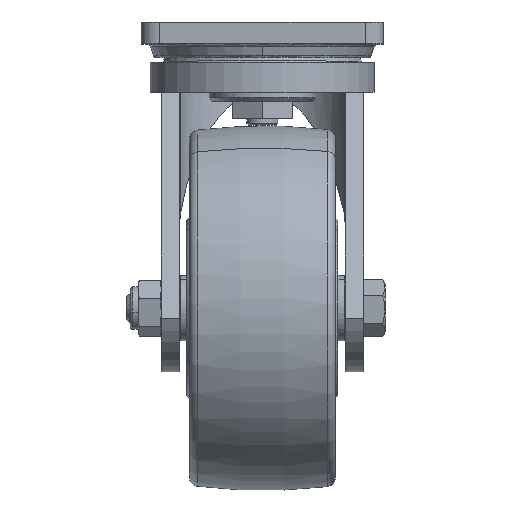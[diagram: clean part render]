
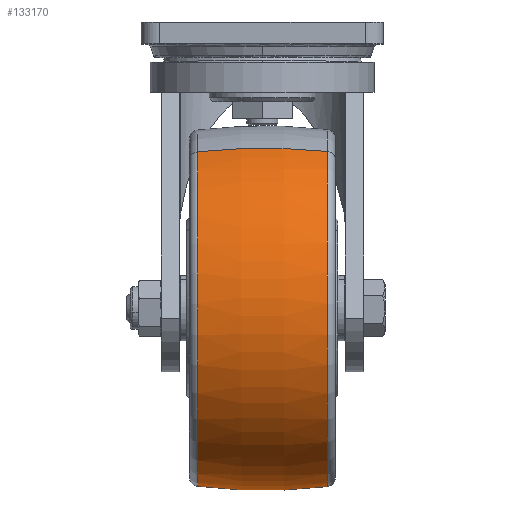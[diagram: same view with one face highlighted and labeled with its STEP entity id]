
A CAD part, top view. The second image highlights one B-rep face of the part: STEP entity #133170.
In plain terms, the highlighted toroidal (fillet/blend) face has major radius 200 mm and minor radius 300 mm.
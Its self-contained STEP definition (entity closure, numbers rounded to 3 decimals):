
#2991 = CARTESIAN_POINT ( 'NONE',  ( 0., -97.971, 35.581 ) ) ;
#13924 = EDGE_LOOP ( 'NONE', ( #23508, #105784, #373351, #107191 ) ) ;
#14680 = CARTESIAN_POINT ( 'NONE',  ( 0., 0., 0.75 ) ) ;
#23508 = ORIENTED_EDGE ( 'NONE', *, *, #274920, .F. ) ;
#30772 = VERTEX_POINT ( 'NONE', #261204 ) ;
#32982 = DIRECTION ( 'NONE',  ( -1., 0., 0. ) ) ;
#75208 = DIRECTION ( 'NONE',  ( 0., -1., 0. ) ) ;
#86481 = VERTEX_POINT ( 'NONE', #384558 ) ;
#101476 = CIRCLE ( 'NONE', #105518, 97.971 ) ;
#105518 = AXIS2_PLACEMENT_3D ( 'NONE', #280203, #217110, #340727 ) ;
#105784 = ORIENTED_EDGE ( 'NONE', *, *, #230179, .T. ) ;
#107191 = ORIENTED_EDGE ( 'NONE', *, *, #182640, .F. ) ;
#114566 = VERTEX_POINT ( 'NONE', #2991 ) ;
#127003 = VERTEX_POINT ( 'NONE', #242156 ) ;
#133170 = ADVANCED_FACE ( 'NONE', ( #154000 ), #191788, .T. ) ;
#154000 = FACE_OUTER_BOUND ( 'NONE', #13924, .T. ) ;
#179668 = AXIS2_PLACEMENT_3D ( 'NONE', #14680, #192480, #75208 ) ;
#180455 = CIRCLE ( 'NONE', #352966, 97.789 ) ;
#182640 = EDGE_CURVE ( 'NONE', #86481, #114566, #101476, .T. ) ;
#191788 = TOROIDAL_SURFACE ( 'NONE', #179668, -200., 300. ) ;
#192480 = DIRECTION ( 'NONE',  ( 0., 0., 1. ) ) ;
#197596 = DIRECTION ( 'NONE',  ( 0., 1., 0. ) ) ;
#213378 = CARTESIAN_POINT ( 'NONE',  ( 0., 200., 0.75 ) ) ;
#217110 = DIRECTION ( 'NONE',  ( 0., 0., 1. ) ) ;
#220969 = EDGE_CURVE ( 'NONE', #127003, #114566, #378297, .T. ) ;
#228117 = DIRECTION ( 'NONE',  ( 0., 0., 1. ) ) ;
#230179 = EDGE_CURVE ( 'NONE', #30772, #127003, #180455, .T. ) ;
#231983 = DIRECTION ( 'NONE',  ( 0., -1., 0. ) ) ;
#242156 = CARTESIAN_POINT ( 'NONE',  ( 0., -97.789, -35.606 ) ) ;
#261204 = CARTESIAN_POINT ( 'NONE',  ( 0., 97.789, -35.606 ) ) ;
#273889 = DIRECTION ( 'NONE',  ( 0., 0., 1. ) ) ;
#274920 = EDGE_CURVE ( 'NONE', #30772, #86481, #302499, .T. ) ;
#277552 = AXIS2_PLACEMENT_3D ( 'NONE', #213378, #32982, #273889 ) ;
#280203 = CARTESIAN_POINT ( 'NONE',  ( 0., 0., 35.581 ) ) ;
#302499 = CIRCLE ( 'NONE', #310403, 300. ) ;
#310403 = AXIS2_PLACEMENT_3D ( 'NONE', #319899, #379160, #197596 ) ;
#319899 = CARTESIAN_POINT ( 'NONE',  ( 0., -200., 0.75 ) ) ;
#340727 = DIRECTION ( 'NONE',  ( 0., -1., 0. ) ) ;
#352966 = AXIS2_PLACEMENT_3D ( 'NONE', #383279, #228117, #231983 ) ;
#373351 = ORIENTED_EDGE ( 'NONE', *, *, #220969, .T. ) ;
#378297 = CIRCLE ( 'NONE', #277552, 300. ) ;
#379160 = DIRECTION ( 'NONE',  ( 1., 0., 0. ) ) ;
#383279 = CARTESIAN_POINT ( 'NONE',  ( 0., 0., -35.606 ) ) ;
#384558 = CARTESIAN_POINT ( 'NONE',  ( 0., 97.971, 35.581 ) ) ;
